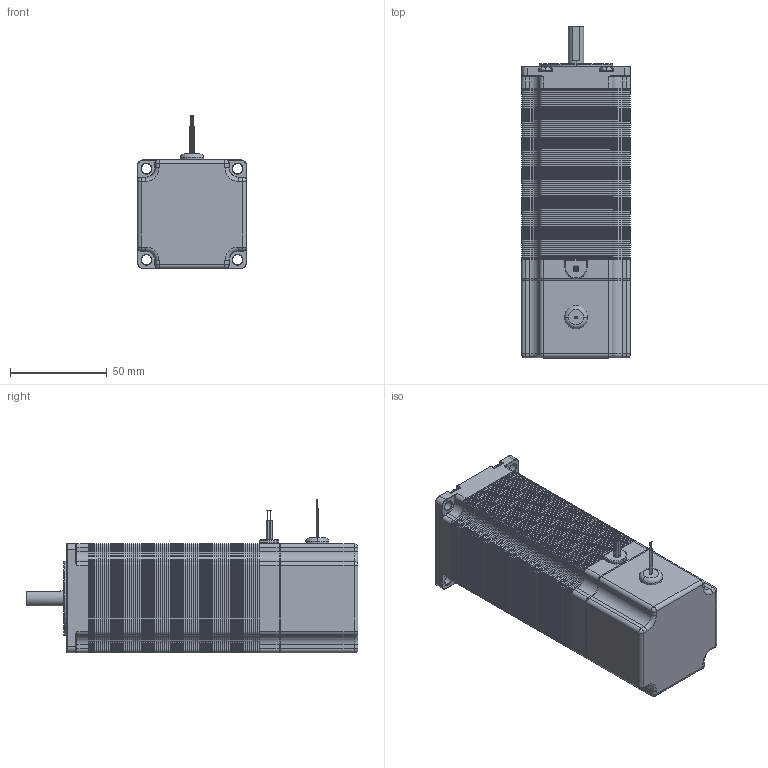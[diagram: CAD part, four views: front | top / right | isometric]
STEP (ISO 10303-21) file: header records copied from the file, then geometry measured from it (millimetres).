
FILE_DESCRIPTION (( 'STEP AP214' ), '1' );
FILE_NAME ('Nema 23 Stepper Motor length_112_mm_8mm_BRK.STEP', '2020-11-11T13:52:00', ( 'Moofasta' ), ( '' ), 'SwSTEP 2.0', 'SolidWorks 2020', '' );
FILE_SCHEMA (( 'AUTOMOTIVE_DESIGN' ));
Length unit declared in the file: millimetre
Products named in the file (1): Nema 23 Stepper Motor length_112_mm_8mm_BRK
Bounding box: 56.3 x 171.5 x 79.3 mm (x, y, z)
Volume: 432279.1 mm3; surface area: 545667.3 mm2
Topology: 104 solids, 105 shells, 7059 faces, 16040 edges, 9175 vertices
Faces by surface type: plane 3537, cone 2140, cylinder 1254, torus 100, sphere 20, bspline 8
Entity records: 267398 total; most frequent: DIRECTION 34846, CARTESIAN_POINT 32701, ORIENTED_EDGE 32024, EDGE_CURVE 16012, AXIS2_PLACEMENT_3D 11856, VECTOR 11134, LINE 11134, VERTEX_POINT 9175
